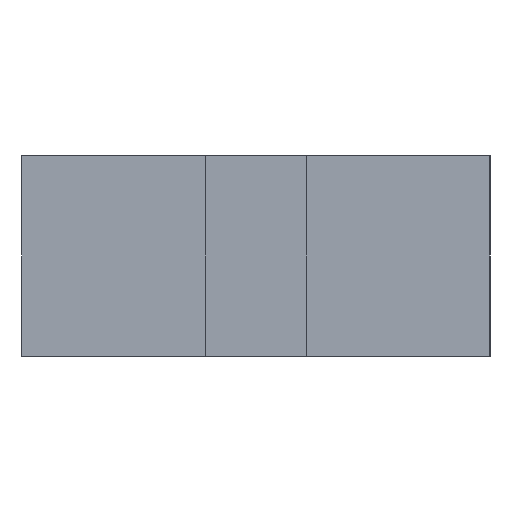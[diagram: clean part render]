
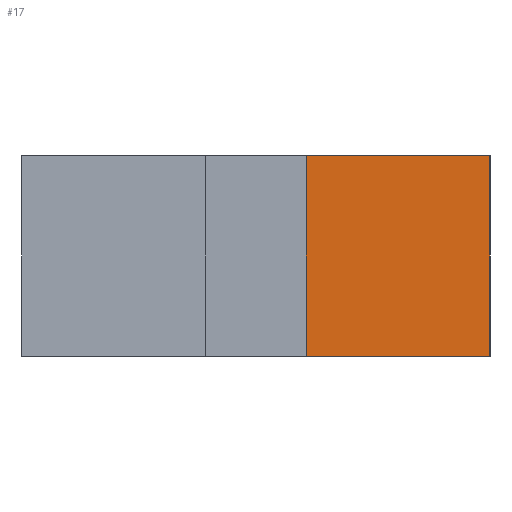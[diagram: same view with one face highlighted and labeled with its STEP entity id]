
A CAD part, left-side view. The second image highlights one B-rep face of the part: STEP entity #17.
In plain terms, the highlighted planar face has unit normal (-1, 0, 0).
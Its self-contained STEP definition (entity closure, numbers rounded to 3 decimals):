
#17 = ADVANCED_FACE('',(#18),#32,.F.);
#18 = FACE_BOUND('',#19,.F.);
#19 = EDGE_LOOP('',(#20,#55,#83,#111));
#20 = ORIENTED_EDGE('',*,*,#21,.F.);
#21 = EDGE_CURVE('',#22,#24,#26,.T.);
#22 = VERTEX_POINT('',#23);
#23 = CARTESIAN_POINT('',(-32.,-7.,6.));
#24 = VERTEX_POINT('',#25);
#25 = CARTESIAN_POINT('',(-32.,-1.5,6.));
#26 = SURFACE_CURVE('',#27,(#31,#43),.PCURVE_S1.);
#27 = LINE('',#28,#29);
#28 = CARTESIAN_POINT('',(-32.,-7.,6.));
#29 = VECTOR('',#30,1.);
#30 = DIRECTION('',(0.,1.,0.));
#31 = PCURVE('',#32,#37);
#32 = PLANE('',#33);
#33 = AXIS2_PLACEMENT_3D('',#34,#35,#36);
#34 = CARTESIAN_POINT('',(-32.,-7.,0.));
#35 = DIRECTION('',(1.,0.,0.));
#36 = DIRECTION('',(0.,0.,1.));
#37 = DEFINITIONAL_REPRESENTATION('',(#38),#42);
#38 = LINE('',#39,#40);
#39 = CARTESIAN_POINT('',(6.,0.));
#40 = VECTOR('',#41,1.);
#41 = DIRECTION('',(0.,-1.));
#42 = ( GEOMETRIC_REPRESENTATION_CONTEXT(2) 
PARAMETRIC_REPRESENTATION_CONTEXT() REPRESENTATION_CONTEXT('2D SPACE',''
  ) );
#43 = PCURVE('',#44,#49);
#44 = PLANE('',#45);
#45 = AXIS2_PLACEMENT_3D('',#46,#47,#48);
#46 = CARTESIAN_POINT('',(-32.,-7.,6.));
#47 = DIRECTION('',(0.,0.,1.));
#48 = DIRECTION('',(1.,0.,0.));
#49 = DEFINITIONAL_REPRESENTATION('',(#50),#54);
#50 = LINE('',#51,#52);
#51 = CARTESIAN_POINT('',(0.,0.));
#52 = VECTOR('',#53,1.);
#53 = DIRECTION('',(0.,1.));
#54 = ( GEOMETRIC_REPRESENTATION_CONTEXT(2) 
PARAMETRIC_REPRESENTATION_CONTEXT() REPRESENTATION_CONTEXT('2D SPACE',''
  ) );
#55 = ORIENTED_EDGE('',*,*,#56,.F.);
#56 = EDGE_CURVE('',#57,#22,#59,.T.);
#57 = VERTEX_POINT('',#58);
#58 = CARTESIAN_POINT('',(-32.,-7.,0.));
#59 = SURFACE_CURVE('',#60,(#64,#71),.PCURVE_S1.);
#60 = LINE('',#61,#62);
#61 = CARTESIAN_POINT('',(-32.,-7.,0.));
#62 = VECTOR('',#63,1.);
#63 = DIRECTION('',(0.,0.,1.));
#64 = PCURVE('',#32,#65);
#65 = DEFINITIONAL_REPRESENTATION('',(#66),#70);
#66 = LINE('',#67,#68);
#67 = CARTESIAN_POINT('',(0.,0.));
#68 = VECTOR('',#69,1.);
#69 = DIRECTION('',(1.,0.));
#70 = ( GEOMETRIC_REPRESENTATION_CONTEXT(2) 
PARAMETRIC_REPRESENTATION_CONTEXT() REPRESENTATION_CONTEXT('2D SPACE',''
  ) );
#71 = PCURVE('',#72,#77);
#72 = PLANE('',#73);
#73 = AXIS2_PLACEMENT_3D('',#74,#75,#76);
#74 = CARTESIAN_POINT('',(-32.,-7.,0.));
#75 = DIRECTION('',(0.,1.,0.));
#76 = DIRECTION('',(0.,0.,1.));
#77 = DEFINITIONAL_REPRESENTATION('',(#78),#82);
#78 = LINE('',#79,#80);
#79 = CARTESIAN_POINT('',(0.,0.));
#80 = VECTOR('',#81,1.);
#81 = DIRECTION('',(1.,0.));
#82 = ( GEOMETRIC_REPRESENTATION_CONTEXT(2) 
PARAMETRIC_REPRESENTATION_CONTEXT() REPRESENTATION_CONTEXT('2D SPACE',''
  ) );
#83 = ORIENTED_EDGE('',*,*,#84,.T.);
#84 = EDGE_CURVE('',#57,#85,#87,.T.);
#85 = VERTEX_POINT('',#86);
#86 = CARTESIAN_POINT('',(-32.,-1.5,0.));
#87 = SURFACE_CURVE('',#88,(#92,#99),.PCURVE_S1.);
#88 = LINE('',#89,#90);
#89 = CARTESIAN_POINT('',(-32.,-7.,0.));
#90 = VECTOR('',#91,1.);
#91 = DIRECTION('',(0.,1.,0.));
#92 = PCURVE('',#32,#93);
#93 = DEFINITIONAL_REPRESENTATION('',(#94),#98);
#94 = LINE('',#95,#96);
#95 = CARTESIAN_POINT('',(0.,0.));
#96 = VECTOR('',#97,1.);
#97 = DIRECTION('',(0.,-1.));
#98 = ( GEOMETRIC_REPRESENTATION_CONTEXT(2) 
PARAMETRIC_REPRESENTATION_CONTEXT() REPRESENTATION_CONTEXT('2D SPACE',''
  ) );
#99 = PCURVE('',#100,#105);
#100 = PLANE('',#101);
#101 = AXIS2_PLACEMENT_3D('',#102,#103,#104);
#102 = CARTESIAN_POINT('',(-32.,-7.,0.));
#103 = DIRECTION('',(0.,0.,1.));
#104 = DIRECTION('',(1.,0.,0.));
#105 = DEFINITIONAL_REPRESENTATION('',(#106),#110);
#106 = LINE('',#107,#108);
#107 = CARTESIAN_POINT('',(0.,0.));
#108 = VECTOR('',#109,1.);
#109 = DIRECTION('',(0.,1.));
#110 = ( GEOMETRIC_REPRESENTATION_CONTEXT(2) 
PARAMETRIC_REPRESENTATION_CONTEXT() REPRESENTATION_CONTEXT('2D SPACE',''
  ) );
#111 = ORIENTED_EDGE('',*,*,#112,.T.);
#112 = EDGE_CURVE('',#85,#24,#113,.T.);
#113 = SURFACE_CURVE('',#114,(#118,#124),.PCURVE_S1.);
#114 = LINE('',#115,#116);
#115 = CARTESIAN_POINT('',(-32.,-1.5,-0.5));
#116 = VECTOR('',#117,1.);
#117 = DIRECTION('',(0.,0.,1.));
#118 = PCURVE('',#32,#119);
#119 = DEFINITIONAL_REPRESENTATION('',(#120),#123);
#120 = B_SPLINE_CURVE_WITH_KNOTS('',1,(#121,#122),.UNSPECIFIED.,.F.,.F.,
  (2,2),(0.5,6.5),.PIECEWISE_BEZIER_KNOTS.);
#121 = CARTESIAN_POINT('',(0.,-5.5));
#122 = CARTESIAN_POINT('',(6.,-5.5));
#123 = ( GEOMETRIC_REPRESENTATION_CONTEXT(2) 
PARAMETRIC_REPRESENTATION_CONTEXT() REPRESENTATION_CONTEXT('2D SPACE',''
  ) );
#124 = PCURVE('',#125,#130);
#125 = PLANE('',#126);
#126 = AXIS2_PLACEMENT_3D('',#127,#128,#129);
#127 = CARTESIAN_POINT('',(-33.,-1.5,-1.));
#128 = DIRECTION('',(0.,1.,0.));
#129 = DIRECTION('',(0.,0.,1.));
#130 = DEFINITIONAL_REPRESENTATION('',(#131),#134);
#131 = B_SPLINE_CURVE_WITH_KNOTS('',1,(#132,#133),.UNSPECIFIED.,.F.,.F.,
  (2,2),(0.5,6.5),.PIECEWISE_BEZIER_KNOTS.);
#132 = CARTESIAN_POINT('',(1.,1.));
#133 = CARTESIAN_POINT('',(7.,1.));
#134 = ( GEOMETRIC_REPRESENTATION_CONTEXT(2) 
PARAMETRIC_REPRESENTATION_CONTEXT() REPRESENTATION_CONTEXT('2D SPACE',''
  ) );
